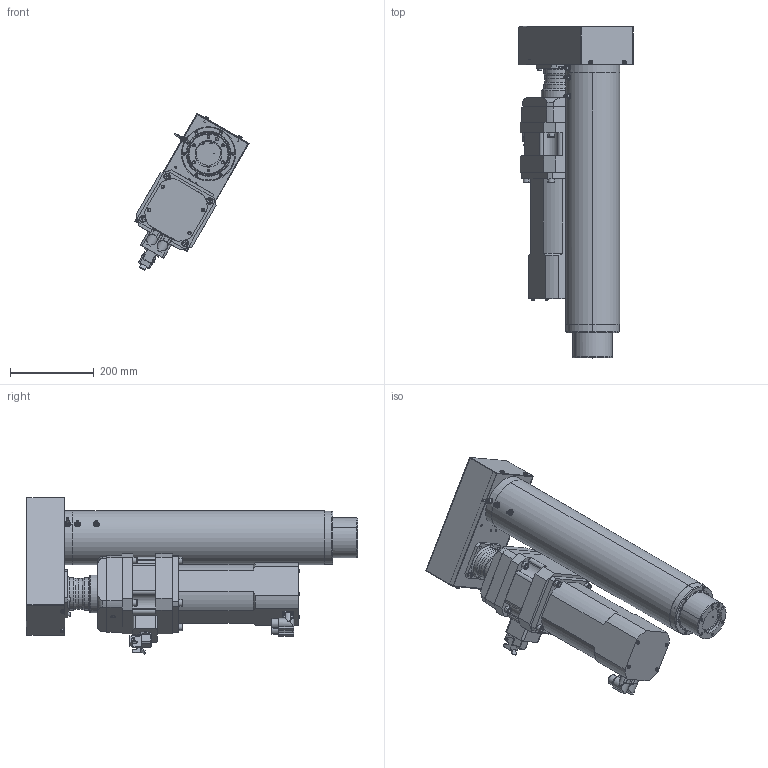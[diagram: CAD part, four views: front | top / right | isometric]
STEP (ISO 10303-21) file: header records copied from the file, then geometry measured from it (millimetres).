
FILE_DESCRIPTION (( 'STEP AP214' ), '1' );
FILE_NAME ('RLWPK030D-035-025SG0.STEP', '2023-04-05T14:21:54', ( '' ), ( '' ), 'SwSTEP 2.0', 'SolidWorks 2021', '' );
FILE_SCHEMA (( 'AUTOMOTIVE_DESIGN' ));
Length unit declared in the file: millimetre
Products named in the file (1): RLWPK030D-035-025SG0
Bounding box: 272.28 x 792.5 x 374.41 mm (x, y, z)
Volume: 15305183.3 mm3; surface area: 1667873.2 mm2
Topology: 34 solids, 34 shells, 1442 faces, 3431 edges, 2076 vertices
Faces by surface type: cylinder 579, plane 543, cone 226, torus 86, bspline 6, sphere 2
Entity records: 58663 total; most frequent: CARTESIAN_POINT 8664, DIRECTION 7530, ORIENTED_EDGE 6586, EDGE_CURVE 3293, AXIS2_PLACEMENT_3D 2918, VERTEX_POINT 2076, EDGE_LOOP 1707, VECTOR 1694
